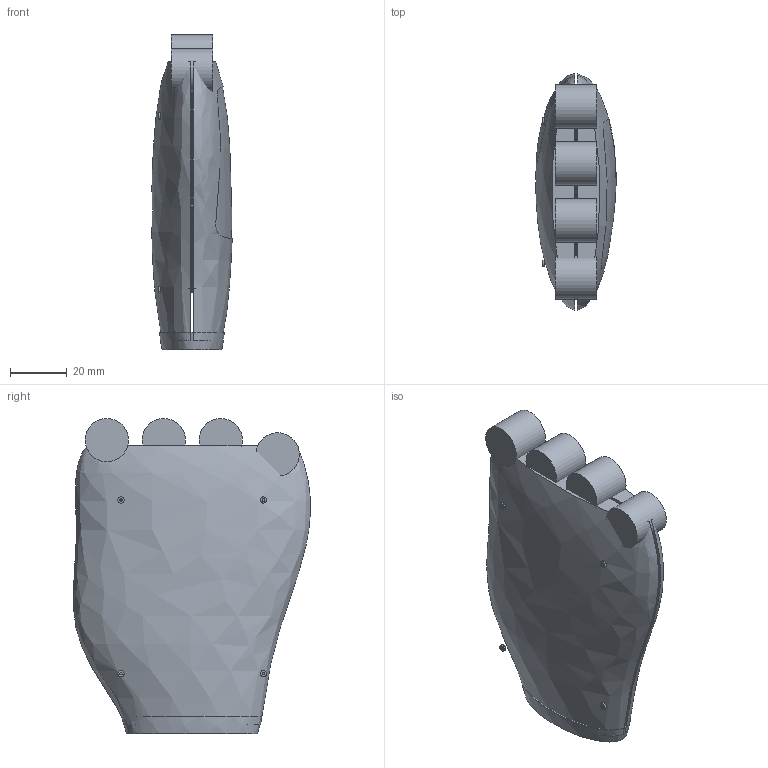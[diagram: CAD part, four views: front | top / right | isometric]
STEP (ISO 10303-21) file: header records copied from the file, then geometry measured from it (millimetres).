
FILE_DESCRIPTION(('FreeCAD Model'),'2;1');
FILE_NAME('Open CASCADE Shape Model','2026-10-05T09:22:54',('Author'),( ''),'Open CASCADE STEP processor 7.8','FreeCAD','Unknown');
FILE_SCHEMA(('AUTOMOTIVE_DESIGN { 1 0 10303 214 1 1 1 1 }'));
Length unit declared in the file: millimetre
Products named in the file (14): Export_palm_base; WristDeviationSeal; PalmAnteriorChassis; PalmDorsalCover; PalmInsetPad; PalmInternalPlate; PalmCoverScrew_-1_18; PalmCoverScrew_-1_79; PalmCoverScrew_1_18; PalmCoverScrew_1_79; indexMCPMount; middleMCPMount; ringMCPMount; pinkyMCPMount
Assembly tree (13 placements, depth 2):
  Export_palm_base
    WristDeviationSeal
    PalmAnteriorChassis
    PalmDorsalCover
    PalmInsetPad
    PalmInternalPlate
    PalmCoverScrew_-1_18
    PalmCoverScrew_-1_79
    PalmCoverScrew_1_18
    PalmCoverScrew_1_79
    indexMCPMount
    middleMCPMount
    ringMCPMount
    pinkyMCPMount
Bounding box: 28.22 x 83.12 x 110.6 mm (x, y, z)
Volume: 89839.1 mm3; surface area: 50366.5 mm2
Topology: 13 solids, 13 shells, 103 faces, 195 edges, 116 vertices
Faces by surface type: plane 46, cylinder 34, sphere 16, bspline 7
Full cylindrical faces by diameter (mm): 0.88 x4, 2.2 x4, 15.2 x4
Entity records: 5137 total; most frequent: CARTESIAN_POINT 2989, DIRECTION 408, ORIENTED_EDGE 374, EDGE_CURVE 187, AXIS2_PLACEMENT_3D 174, VERTEX_POINT 116, FACE_BOUND 111, EDGE_LOOP 111
